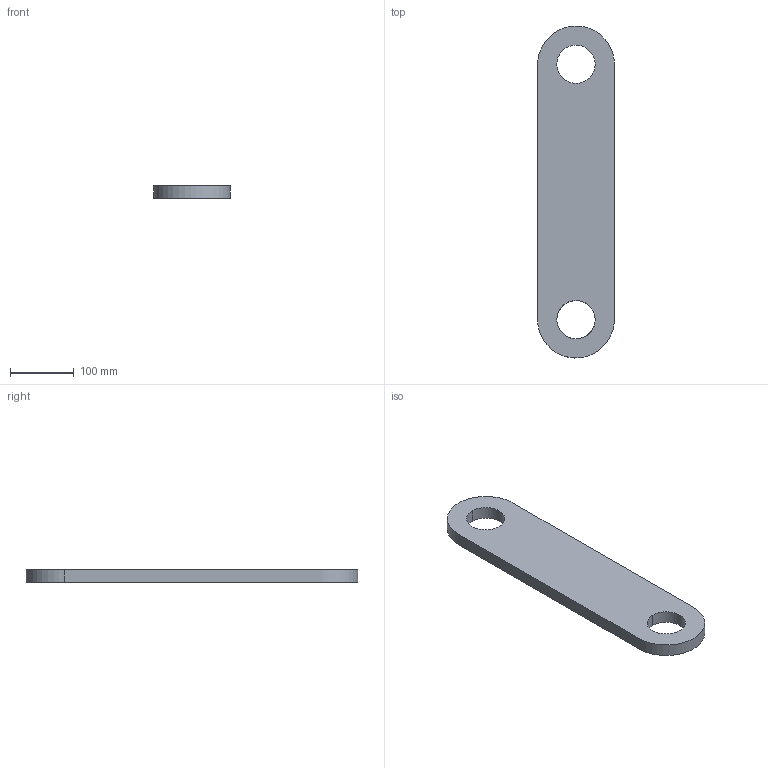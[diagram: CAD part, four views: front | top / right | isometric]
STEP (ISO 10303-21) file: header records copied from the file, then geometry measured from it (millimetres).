
FILE_DESCRIPTION(/* description */ (''),/* implementation_level */ '2;1');
FILE_NAME(/* name */ 'LINKPL~2',/* time_stamp */ '2015-07-17T02:26:44-04:00',/* author */ (''),/* organization */ (''),/* preprocessor_version */ 'ST-DEVELOPER v15',/* originating_system */ '',/* authorisation */ '');
FILE_SCHEMA (('CONFIG_CONTROL_DESIGN'));
Length unit declared in the file: millimetre
Products named in the file (1): Document
Bounding box: 120 x 519.93 x 20 mm (x, y, z)
Volume: 1072447.2 mm3; surface area: 138331.2 mm2
Topology: 1 solids, 1 shells, 8 faces, 18 edges, 12 vertices
Faces by surface type: bspline 6, plane 2
Entity records: 366 total; most frequent: CARTESIAN_POINT 164, ORIENTED_EDGE 36, EDGE_CURVE 18, EDGE_LOOP 12, VERTEX_POINT 12, ADVANCED_FACE 8, FACE_OUTER_BOUND 8, ORGANIZATION 7
